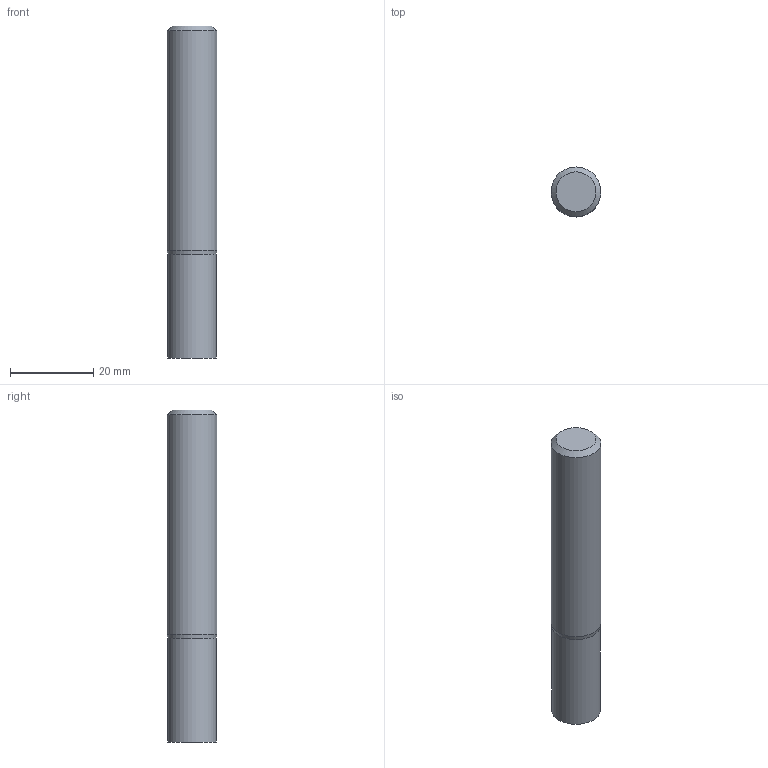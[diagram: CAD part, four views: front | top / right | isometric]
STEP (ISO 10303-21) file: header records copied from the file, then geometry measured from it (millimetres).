
FILE_DESCRIPTION((''),'2;1');
FILE_NAME('C:\Users\nsx150\AppData\Local\Temp\Mastercam 2021\98T1Q6BTT1\TEMP.step','2021-10-21T14:50:30',(''),(''),'STEP Write','Mastercam 2021 ... CNC Software, Inc.','');
FILE_SCHEMA(('AUTOMOTIVE_DESIGN'));
Length unit declared in the file: millimetre
Products named in the file (1): None
Bounding box: 12 x 12 x 80 mm (x, y, z)
Volume: 8880.2 mm3; surface area: 3399.6 mm2
Topology: 2 solids, 2 shells, 8 faces, 10 edges, 6 vertices
Faces by surface type: plane 4, cylinder 2, cone 2
Full cylindrical faces by diameter (mm): 11.7 x1, 12 x1
Entity records: 190 total; most frequent: DIRECTION 32, CARTESIAN_POINT 22, AXIS2_PLACEMENT_3D 16, ORIENTED_EDGE 12, EDGE_LOOP 12, STYLED_ITEM 11, ADVANCED_FACE 8, VERTEX_POINT 6
